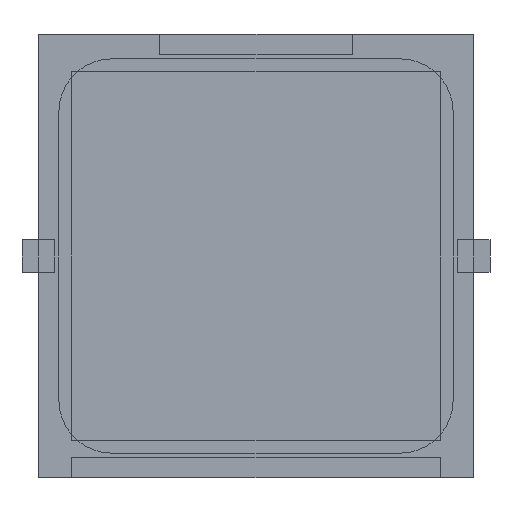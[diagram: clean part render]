
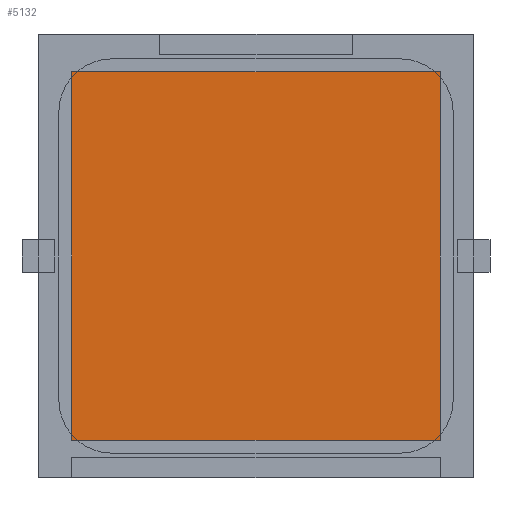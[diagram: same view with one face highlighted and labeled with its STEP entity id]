
A CAD part, front view. The second image highlights one B-rep face of the part: STEP entity #5132.
In plain terms, the highlighted planar face has unit normal (0, -1, 0).
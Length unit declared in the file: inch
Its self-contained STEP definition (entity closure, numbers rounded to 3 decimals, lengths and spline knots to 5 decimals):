
#80 = VERTEX_POINT ( 'NONE', #4773 ) ;
#149 = ORIENTED_EDGE ( 'NONE', *, *, #3460, .T. ) ;
#386 = DIRECTION ( 'NONE',  ( 0., 0., 1. ) ) ;
#596 = VECTOR ( 'NONE', #5587, 39.37008 ) ;
#822 = ORIENTED_EDGE ( 'NONE', *, *, #5642, .T. ) ;
#827 = CARTESIAN_POINT ( 'NONE',  ( -0.45276, -0.00346, -0.45276 ) ) ;
#912 = DIRECTION ( 'NONE',  ( 0., 0., -1. ) ) ;
#1012 = AXIS2_PLACEMENT_3D ( 'NONE', #4146, #5393, #386 ) ;
#1140 = ORIENTED_EDGE ( 'NONE', *, *, #5725, .T. ) ;
#1551 = DIRECTION ( 'NONE',  ( 1., 0., 0. ) ) ;
#1671 = PLANE ( 'NONE',  #1012 ) ;
#1769 = VECTOR ( 'NONE', #1551, 39.37008 ) ;
#1770 = VERTEX_POINT ( 'NONE', #5871 ) ;
#2308 = CARTESIAN_POINT ( 'NONE',  ( -0.45276, -0.00346, 0.45276 ) ) ;
#2398 = VECTOR ( 'NONE', #6669, 39.37008 ) ;
#2779 = EDGE_LOOP ( 'NONE', ( #4666, #822, #149, #1140 ) ) ;
#3353 = CARTESIAN_POINT ( 'NONE',  ( -0.45276, -0.00346, 0.45276 ) ) ;
#3460 = EDGE_CURVE ( 'NONE', #80, #4791, #4465, .T. ) ;
#4146 = CARTESIAN_POINT ( 'NONE',  ( 0., -0.00346, 0. ) ) ;
#4465 = LINE ( 'NONE', #3353, #5812 ) ;
#4666 = ORIENTED_EDGE ( 'NONE', *, *, #4744, .T. ) ;
#4737 = CARTESIAN_POINT ( 'NONE',  ( 0.45276, -0.00346, 0.45276 ) ) ;
#4744 = EDGE_CURVE ( 'NONE', #1770, #7161, #7571, .T. ) ;
#4773 = CARTESIAN_POINT ( 'NONE',  ( -0.45276, -0.00346, 0.45276 ) ) ;
#4791 = VERTEX_POINT ( 'NONE', #5226 ) ;
#5132 = ADVANCED_FACE ( 'NONE', ( #7678 ), #1671, .T. ) ;
#5226 = CARTESIAN_POINT ( 'NONE',  ( -0.45276, -0.00346, -0.45276 ) ) ;
#5393 = DIRECTION ( 'NONE',  ( 0., -1., 0. ) ) ;
#5587 = DIRECTION ( 'NONE',  ( 0., 0., 1. ) ) ;
#5642 = EDGE_CURVE ( 'NONE', #7161, #80, #7231, .T. ) ;
#5671 = CARTESIAN_POINT ( 'NONE',  ( 0.45276, -0.00346, 0.45276 ) ) ;
#5725 = EDGE_CURVE ( 'NONE', #4791, #1770, #6297, .T. ) ;
#5812 = VECTOR ( 'NONE', #912, 39.37008 ) ;
#5871 = CARTESIAN_POINT ( 'NONE',  ( 0.45276, -0.00346, -0.45276 ) ) ;
#6297 = LINE ( 'NONE', #827, #1769 ) ;
#6669 = DIRECTION ( 'NONE',  ( -1., 0., 0. ) ) ;
#7161 = VERTEX_POINT ( 'NONE', #4737 ) ;
#7231 = LINE ( 'NONE', #2308, #2398 ) ;
#7571 = LINE ( 'NONE', #5671, #596 ) ;
#7678 = FACE_OUTER_BOUND ( 'NONE', #2779, .T. ) ;
